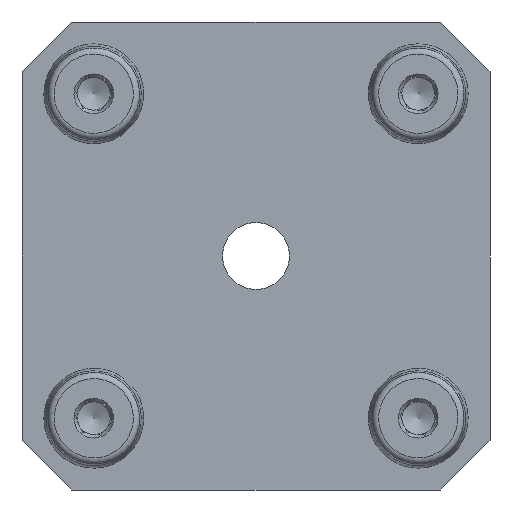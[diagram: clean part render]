
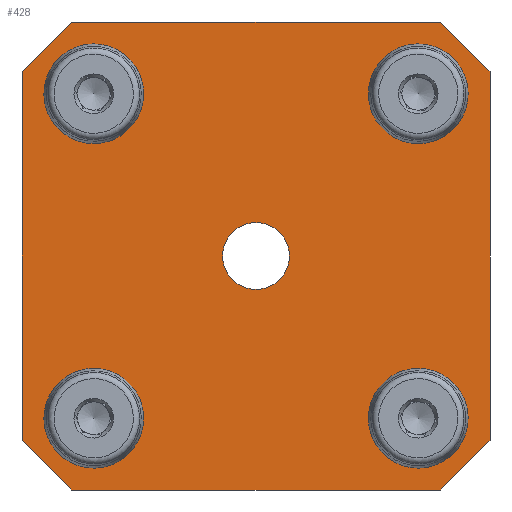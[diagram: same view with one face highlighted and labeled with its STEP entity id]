
A CAD part, front view. The second image highlights one B-rep face of the part: STEP entity #428.
In plain terms, the highlighted planar face has unit normal (0, -1, 0).
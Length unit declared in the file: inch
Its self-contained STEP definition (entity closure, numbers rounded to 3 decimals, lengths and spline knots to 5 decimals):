
#27 = CIRCLE ( 'NONE', #2366, 0.21095 ) ;
#28 = EDGE_CURVE ( 'NONE', #701, #2365, #1712, .T. ) ;
#31 = CARTESIAN_POINT ( 'NONE',  ( -1.16142, 0., 1.47638 ) ) ;
#37 = CARTESIAN_POINT ( 'NONE',  ( 1.02362, 0., 1.02362 ) ) ;
#76 = DIRECTION ( 'NONE',  ( 0., 0., -1. ) ) ;
#77 = ORIENTED_EDGE ( 'NONE', *, *, #2274, .F. ) ;
#86 = EDGE_CURVE ( 'NONE', #95, #2057, #621, .T. ) ;
#95 = VERTEX_POINT ( 'NONE', #1284 ) ;
#96 = DIRECTION ( 'NONE',  ( 1., 0., 0. ) ) ;
#125 = DIRECTION ( 'NONE',  ( 0.707, 0., 0.707 ) ) ;
#135 = LINE ( 'NONE', #788, #1842 ) ;
#178 = VECTOR ( 'NONE', #125, 39.37008 ) ;
#183 = CIRCLE ( 'NONE', #2131, 0.23655 ) ;
#192 = DIRECTION ( 'NONE',  ( 0., 0., -1. ) ) ;
#194 = ORIENTED_EDGE ( 'NONE', *, *, #1658, .F. ) ;
#218 = EDGE_CURVE ( 'NONE', #95, #1270, #405, .T. ) ;
#224 = DIRECTION ( 'NONE',  ( 0., 0., -1. ) ) ;
#259 = EDGE_LOOP ( 'NONE', ( #2803 ) ) ;
#274 = VERTEX_POINT ( 'NONE', #1992 ) ;
#293 = EDGE_CURVE ( 'NONE', #1452, #2365, #1308, .T. ) ;
#309 = LINE ( 'NONE', #2687, #178 ) ;
#314 = VERTEX_POINT ( 'NONE', #1847 ) ;
#320 = FACE_OUTER_BOUND ( 'NONE', #2079, .T. ) ;
#322 = DIRECTION ( 'NONE',  ( 0.707, 0., -0.707 ) ) ;
#335 = FACE_BOUND ( 'NONE', #1985, .T. ) ;
#375 = EDGE_LOOP ( 'NONE', ( #612 ) ) ;
#405 = LINE ( 'NONE', #1262, #1206 ) ;
#428 = ADVANCED_FACE ( 'NONE', ( #954, #1631, #1212, #1180, #335, #320 ), #2095, .F. ) ;
#448 = CARTESIAN_POINT ( 'NONE',  ( -1.16142, 0., -1.47638 ) ) ;
#472 = DIRECTION ( 'NONE',  ( -0.707, 0., -0.707 ) ) ;
#512 = EDGE_CURVE ( 'NONE', #314, #2348, #1496, .T. ) ;
#536 = CIRCLE ( 'NONE', #641, 0.23655 ) ;
#568 = CARTESIAN_POINT ( 'NONE',  ( -1.16142, 0., 1.47638 ) ) ;
#612 = ORIENTED_EDGE ( 'NONE', *, *, #1393, .T. ) ;
#621 = LINE ( 'NONE', #2806, #983 ) ;
#641 = AXIS2_PLACEMENT_3D ( 'NONE', #37, #2610, #1527 ) ;
#660 = AXIS2_PLACEMENT_3D ( 'NONE', #989, #2827, #1469 ) ;
#701 = VERTEX_POINT ( 'NONE', #2824 ) ;
#736 = CARTESIAN_POINT ( 'NONE',  ( 1.02362, 0., -1.02362 ) ) ;
#766 = LINE ( 'NONE', #2015, #1120 ) ;
#788 = CARTESIAN_POINT ( 'NONE',  ( -1.47638, 0., 1.47638 ) ) ;
#811 = DIRECTION ( 'NONE',  ( -1., 0., 0. ) ) ;
#858 = EDGE_CURVE ( 'NONE', #1986, #1986, #536, .T. ) ;
#884 = VECTOR ( 'NONE', #811, 39.37008 ) ;
#926 = CARTESIAN_POINT ( 'NONE',  ( 1.02362, 0., 1.26017 ) ) ;
#947 = ORIENTED_EDGE ( 'NONE', *, *, #2240, .T. ) ;
#954 = FACE_BOUND ( 'NONE', #375, .T. ) ;
#967 = ORIENTED_EDGE ( 'NONE', *, *, #293, .T. ) ;
#983 = VECTOR ( 'NONE', #2605, 39.37008 ) ;
#989 = CARTESIAN_POINT ( 'NONE',  ( 0., 0., 0. ) ) ;
#998 = EDGE_LOOP ( 'NONE', ( #77 ) ) ;
#1013 = ORIENTED_EDGE ( 'NONE', *, *, #512, .F. ) ;
#1014 = EDGE_CURVE ( 'NONE', #274, #274, #183, .T. ) ;
#1039 = CARTESIAN_POINT ( 'NONE',  ( -1.47638, 0., -1.47638 ) ) ;
#1078 = AXIS2_PLACEMENT_3D ( 'NONE', #736, #1408, #76 ) ;
#1120 = VECTOR ( 'NONE', #322, 39.37008 ) ;
#1123 = EDGE_CURVE ( 'NONE', #1561, #1561, #1980, .T. ) ;
#1148 = CARTESIAN_POINT ( 'NONE',  ( 0., 0., 0.21095 ) ) ;
#1176 = ORIENTED_EDGE ( 'NONE', *, *, #1014, .F. ) ;
#1180 = FACE_BOUND ( 'NONE', #2680, .T. ) ;
#1206 = VECTOR ( 'NONE', #192, 39.37008 ) ;
#1212 = FACE_BOUND ( 'NONE', #998, .T. ) ;
#1237 = ORIENTED_EDGE ( 'NONE', *, *, #2225, .T. ) ;
#1262 = CARTESIAN_POINT ( 'NONE',  ( 1.47638, 0., -1.47638 ) ) ;
#1270 = VERTEX_POINT ( 'NONE', #1365 ) ;
#1275 = CARTESIAN_POINT ( 'NONE',  ( -1.02362, 0., 1.02362 ) ) ;
#1284 = CARTESIAN_POINT ( 'NONE',  ( 1.47638, 0., 1.16142 ) ) ;
#1292 = CARTESIAN_POINT ( 'NONE',  ( -1.47638, 0., 1.16142 ) ) ;
#1308 = LINE ( 'NONE', #31, #1914 ) ;
#1365 = CARTESIAN_POINT ( 'NONE',  ( 1.47638, 0., -1.16142 ) ) ;
#1393 = EDGE_CURVE ( 'NONE', #2232, #2232, #27, .T. ) ;
#1402 = ORIENTED_EDGE ( 'NONE', *, *, #218, .F. ) ;
#1408 = DIRECTION ( 'NONE',  ( 0., -1., 0. ) ) ;
#1452 = VERTEX_POINT ( 'NONE', #568 ) ;
#1455 = DIRECTION ( 'NONE',  ( 0., 0., 1. ) ) ;
#1467 = VECTOR ( 'NONE', #1940, 39.37008 ) ;
#1469 = DIRECTION ( 'NONE',  ( 0., 0., 1. ) ) ;
#1496 = LINE ( 'NONE', #1039, #884 ) ;
#1511 = DIRECTION ( 'NONE',  ( 0., -1., 0. ) ) ;
#1527 = DIRECTION ( 'NONE',  ( 0., 0., 1. ) ) ;
#1561 = VERTEX_POINT ( 'NONE', #2446 ) ;
#1631 = FACE_BOUND ( 'NONE', #259, .T. ) ;
#1658 = EDGE_CURVE ( 'NONE', #1452, #2057, #135, .T. ) ;
#1683 = CARTESIAN_POINT ( 'NONE',  ( -1.02362, 0., -1.02362 ) ) ;
#1712 = LINE ( 'NONE', #2392, #1467 ) ;
#1790 = ORIENTED_EDGE ( 'NONE', *, *, #28, .F. ) ;
#1828 = VERTEX_POINT ( 'NONE', #2752 ) ;
#1842 = VECTOR ( 'NONE', #96, 39.37008 ) ;
#1847 = CARTESIAN_POINT ( 'NONE',  ( 1.16142, 0., -1.47638 ) ) ;
#1914 = VECTOR ( 'NONE', #472, 39.37008 ) ;
#1940 = DIRECTION ( 'NONE',  ( 0., 0., 1. ) ) ;
#1980 = CIRCLE ( 'NONE', #2629, 0.23655 ) ;
#1985 = EDGE_LOOP ( 'NONE', ( #1176 ) ) ;
#1986 = VERTEX_POINT ( 'NONE', #926 ) ;
#1991 = ORIENTED_EDGE ( 'NONE', *, *, #86, .T. ) ;
#1992 = CARTESIAN_POINT ( 'NONE',  ( -1.02362, 0., 0.78707 ) ) ;
#2015 = CARTESIAN_POINT ( 'NONE',  ( -1.47638, 0., -1.16142 ) ) ;
#2057 = VERTEX_POINT ( 'NONE', #2138 ) ;
#2079 = EDGE_LOOP ( 'NONE', ( #1402, #1991, #194, #967, #1790, #947, #1013, #1237 ) ) ;
#2082 = CARTESIAN_POINT ( 'NONE',  ( 0., 0., 0. ) ) ;
#2095 = PLANE ( 'NONE',  #660 ) ;
#2096 = DIRECTION ( 'NONE',  ( 0., 0., 1. ) ) ;
#2131 = AXIS2_PLACEMENT_3D ( 'NONE', #1275, #1511, #224 ) ;
#2138 = CARTESIAN_POINT ( 'NONE',  ( 1.16142, 0., 1.47638 ) ) ;
#2225 = EDGE_CURVE ( 'NONE', #314, #1270, #309, .T. ) ;
#2232 = VERTEX_POINT ( 'NONE', #1148 ) ;
#2240 = EDGE_CURVE ( 'NONE', #701, #2348, #766, .T. ) ;
#2274 = EDGE_CURVE ( 'NONE', #1828, #1828, #2427, .T. ) ;
#2319 = DIRECTION ( 'NONE',  ( 0., 1., 0. ) ) ;
#2348 = VERTEX_POINT ( 'NONE', #448 ) ;
#2365 = VERTEX_POINT ( 'NONE', #1292 ) ;
#2366 = AXIS2_PLACEMENT_3D ( 'NONE', #2082, #2319, #2096 ) ;
#2392 = CARTESIAN_POINT ( 'NONE',  ( -1.47638, 0., -1.47638 ) ) ;
#2427 = CIRCLE ( 'NONE', #1078, 0.23655 ) ;
#2446 = CARTESIAN_POINT ( 'NONE',  ( -1.02362, 0., -0.78707 ) ) ;
#2567 = DIRECTION ( 'NONE',  ( 0., -1., 0. ) ) ;
#2605 = DIRECTION ( 'NONE',  ( -0.707, 0., 0.707 ) ) ;
#2610 = DIRECTION ( 'NONE',  ( 0., -1., 0. ) ) ;
#2629 = AXIS2_PLACEMENT_3D ( 'NONE', #1683, #2567, #1455 ) ;
#2680 = EDGE_LOOP ( 'NONE', ( #2789 ) ) ;
#2687 = CARTESIAN_POINT ( 'NONE',  ( 1.16142, 0., -1.47638 ) ) ;
#2752 = CARTESIAN_POINT ( 'NONE',  ( 1.02362, 0., -1.26017 ) ) ;
#2789 = ORIENTED_EDGE ( 'NONE', *, *, #858, .F. ) ;
#2803 = ORIENTED_EDGE ( 'NONE', *, *, #1123, .F. ) ;
#2806 = CARTESIAN_POINT ( 'NONE',  ( 1.47638, 0., 1.16142 ) ) ;
#2824 = CARTESIAN_POINT ( 'NONE',  ( -1.47638, 0., -1.16142 ) ) ;
#2827 = DIRECTION ( 'NONE',  ( 0., 1., 0. ) ) ;
